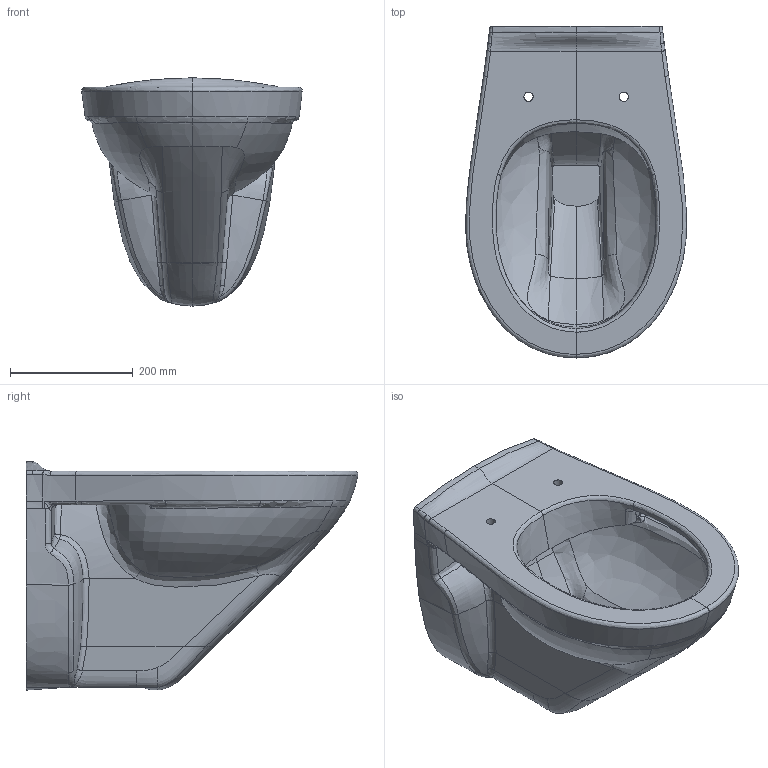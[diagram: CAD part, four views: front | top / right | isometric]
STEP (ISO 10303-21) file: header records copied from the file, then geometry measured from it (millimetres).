
FILE_DESCRIPTION(/* description */ (''),/* implementation_level */ '2;1');
FILE_NAME(/* name */ 'New-Targa_4693R0-WWC-DF-Teardrop.stp',/* time_stamp */ '2021-04-15T09:33:14+02:00',/* author */ (''),/* organization */ (''),/* preprocessor_version */ 'ST-DEVELOPER v16.7',/* originating_system */ 'SIEMENS PLM Software NX 1863',/* authorisation */ '');
FILE_SCHEMA (('AUTOMOTIVE_DESIGN { 1 0 10303 214 3 1 1 1 }'));
Products named in the file (1): koeb337434CElcxd
Bounding box: 358.82 x 540.11 x 371.29 mm (x, y, z)
Volume: 14914484.8 mm3; surface area: 910733.4 mm2
Topology: 1 solids, 1 shells, 229 faces, 686 edges, 447 vertices
Faces by surface type: bspline 226, cylinder 2, plane 1
Full cylindrical faces by diameter (mm): 15 x2
Entity records: 60621 total; most frequent: CARTESIAN_POINT 56608, ORIENTED_EDGE 1344, EDGE_CURVE 672, B_SPLINE_CURVE_WITH_KNOTS 626, VERTEX_POINT 447, EDGE_LOOP 235, ADVANCED_FACE 229, FACE_OUTER_BOUND 223
